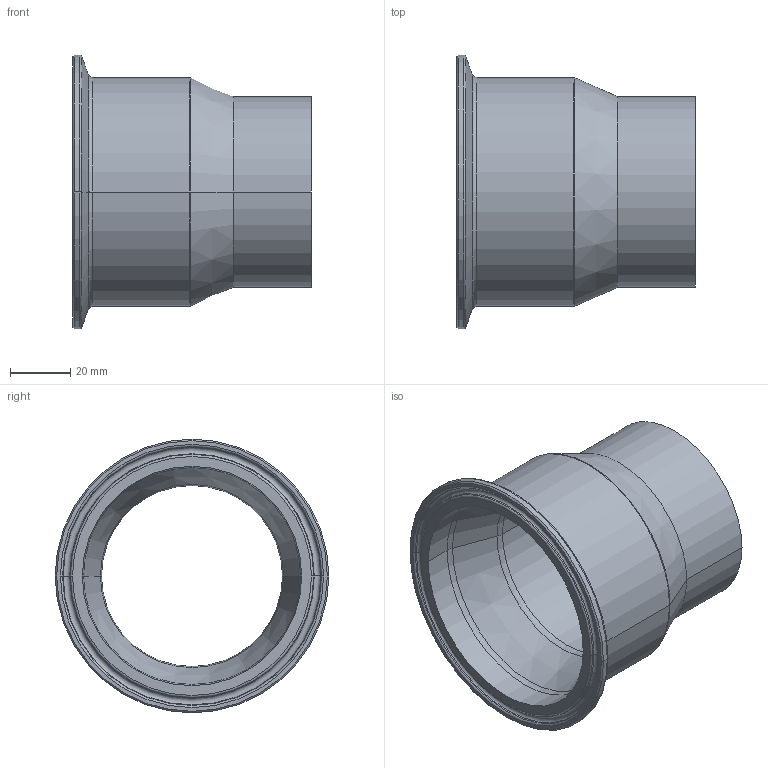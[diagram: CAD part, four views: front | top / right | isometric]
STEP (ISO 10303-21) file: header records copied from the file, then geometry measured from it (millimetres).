
FILE_DESCRIPTION (( 'STEP AP214' ), '1' );
FILE_NAME ('TE31SCW6L3.0x2.5-...STEP', '2016-05-29T12:04:21', ( 'eran' ), ( '' ), 'SwSTEP 2.0', 'SolidWorks 2016', '' );
FILE_SCHEMA (( 'AUTOMOTIVE_DESIGN' ));
Length unit declared in the file: millimetre
Products named in the file (1): TE31SCW6L3.0x2.5-..
Bounding box: 79.38 x 91 x 91 mm (x, y, z)
Volume: 72261.7 mm3; surface area: 38365.3 mm2
Topology: 1 solids, 1 shells, 41 faces, 82 edges, 44 vertices
Faces by surface type: torus 16, cone 12, cylinder 10, plane 3
Entity records: 1098 total; most frequent: DIRECTION 226, CARTESIAN_POINT 168, ORIENTED_EDGE 164, AXIS2_PLACEMENT_3D 102, EDGE_CURVE 82, CIRCLE 60, VERTEX_POINT 44, EDGE_LOOP 44
